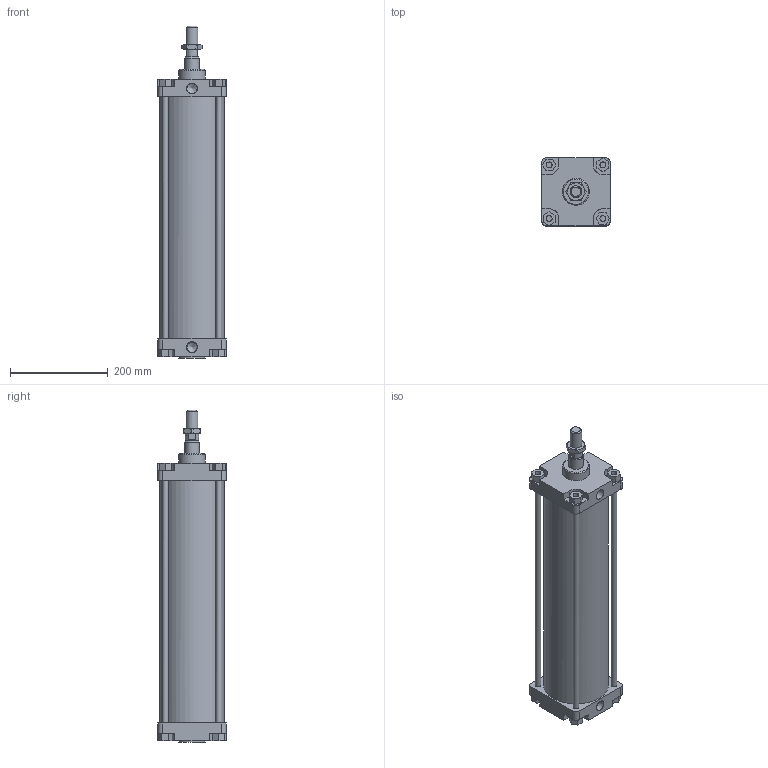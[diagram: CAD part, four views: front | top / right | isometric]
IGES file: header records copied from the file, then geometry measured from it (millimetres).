
Global section: file name: 1304_125_0400_01A; native system: Autodesk Inventor 2014; preprocessor: unknown; author: A. Manieri; date: 20161124.142456; units: millimetre
Bounding box: 140 x 140 x 680 mm (x, y, z)
Volume: 3888796.2 mm3; surface area: 742472 mm2
Topology: 9 solids, 9 shells, 175 faces, 440 edges, 295 vertices
Faces by surface type: bspline 175
